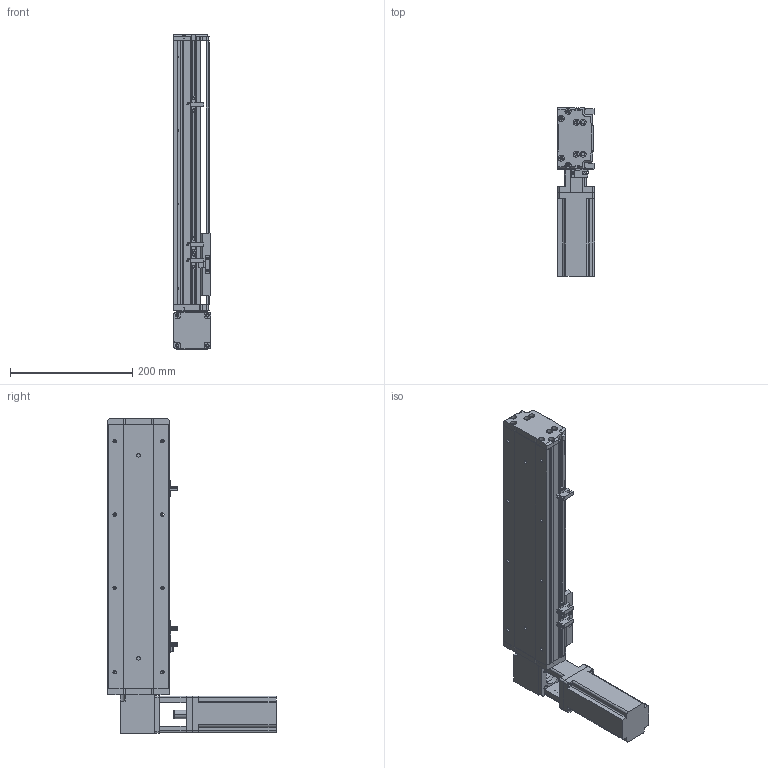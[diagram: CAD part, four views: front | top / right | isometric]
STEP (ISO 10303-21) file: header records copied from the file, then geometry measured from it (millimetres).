
FILE_DESCRIPTION (( 'STEP AP214' ), '1' );
FILE_NAME ('KSD100B-S250-MLT-CM.STEP', '2019-11-11T03:44:06', ( '微软用户' ), ( '微软中国' ), 'SwSTEP 2.0', 'SolidWorks 2014', '' );
FILE_SCHEMA (( 'AUTOMOTIVE_DESIGN' ));
Length unit declared in the file: millimetre
Products named in the file (12): 100宽安装板同步带带电机座400W,86; 100遵鎮湛假蚾啣1 ; 100宽防尘板250行程-同步带; U倰嫖萇EEㄜSX672; 覜茼え100遵圉猾敕; 台达ECMA－C20604AS伺服电机; 100宽马达安装板同步带右; 100宽同步带安装板半封闭; 100宽马达安装板同步带; 100遵傷啣肮祭湍; 100宽底板半封闭同步带250行程; KSD100B-S250-MLT-CM
Assembly tree (13 placements, depth 2):
  KSD100B-S250-MLT-CM
    100宽底板半封闭同步带250行程
    100遵傷啣肮祭湍
    100宽马达安装板同步带
    100宽同步带安装板半封闭
    100宽马达安装板同步带右
    台达ECMA－C20604AS伺服电机
    覜茼え100遵圉猾敕
    U倰嫖萇EEㄜSX672  x3
    100宽防尘板250行程-同步带
    100遵鎮湛假蚾啣1 
    100宽安装板同步带带电机座400W,86
Bounding box: 61 x 275 x 515 mm (x, y, z)
Volume: 1544839.1 mm3; surface area: 451088.1 mm2
Topology: 14 solids, 14 shells, 1244 faces, 3457 edges, 2227 vertices
Faces by surface type: cylinder 606, plane 551, cone 87
Entity records: 41581 total; most frequent: CARTESIAN_POINT 7428, DIRECTION 5953, ORIENTED_EDGE 5646, EDGE_CURVE 2823, AXIS2_PLACEMENT_3D 2170, VERTEX_POINT 1851, LINE 1613, VECTOR 1613
